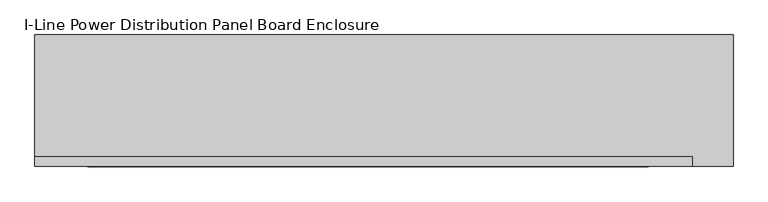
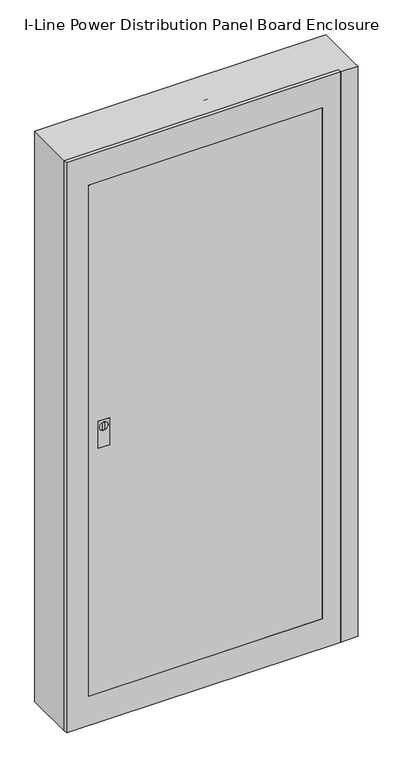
"""IFC4 building model written with IfcOpenShell, lengths in millimetres: proxy geometry, I-Line_Power_Distribution_Panel_Board_Enclosure_MDP-100_BIM_Model : I-Line Power Distribution Panel Board Enclosure."""

from ifc_helpers import new_model, si_unit, point, frame, frame_2d, origin, origin_with_axes, place, context, project, spatial, polyline, circle_curve, trimmed, segment, composite_curve, outline, extrude, source, transform, mapped, element, save


def i_line_power_distribution_panel_board_enclosure_b05ded53(model_context):
    return source(origin(), model_context, "Body", "SweptSolid", [
        extrude(outline(polyline([(29.9355959, 20.4466569), (29.9355959, -19.5533431), (-30.0644041, -19.5533431), (-30.0644041, 20.4466569), (29.9355959, 20.4466569)])), frame((0.0, 0.0, 2309.0), z_axis=(0.0, 0.0, 1.0), x_axis=(1.0, 0.0, 0.0)), (0.0, 0.0, 1.0), 1.0),
        extrude(outline(polyline([(1220.9933328, -394.120244), (1220.9933328, -438.1115289), (1112.0, -438.1115289), (1112.0, -394.120244), (1220.9933328, -394.120244)]), holes=[composite_curve([segment(trimmed(circle_curve(frame_2d((1194.7298791, -416.1240938)), 16.4146586), [point((1194.7298791, -432.5387523))], [point((1194.7298791, -399.7094352))], True, "CARTESIAN"), True, "CONTINUOUS"), segment(trimmed(circle_curve(frame_2d((1194.7298791, -416.1240938)), 16.4146586), [point((1194.7298791, -399.7094352))], [point((1194.7298791, -432.5387523))], True, "CARTESIAN"), True, "CONTINUOUS")], self_intersect=False)]), frame((0.0, -106.0, 0.0), z_axis=(0.0, 1.0, 0.0), x_axis=(0.0, 0.0, 1.0)), (0.0, 0.0, 1.0), 1.0),
        extrude(outline(composite_curve([segment(polyline([(1209.9614329, -420.0636118), (1179.4669633, -420.0636118)]), True, "CONTINUOUS"), segment(trimmed(circle_curve(frame_2d((1213.1619767, -416.1240938)), 33.9245299), [point((1179.4669633, -420.0636118))], [point((1179.4669633, -412.1845757))], False, "CARTESIAN"), True, "CONTINUOUS"), segment(polyline([(1179.4669633, -412.1845757), (1209.9614329, -412.1845757)]), True, "CONTINUOUS"), segment(trimmed(circle_curve(frame_2d((1194.1423953, -416.1240938)), 16.3022009), [point((1209.9614329, -412.1845757))], [point((1209.9614329, -420.0636118))], False, "CARTESIAN"), True, "CONTINUOUS")], self_intersect=False)), frame((0.0, -106.0, 0.0), z_axis=(0.0, 1.0, 0.0), x_axis=(0.0, 0.0, 1.0)), (0.0, 0.0, 1.0), 1.0),
        extrude(outline(polyline([(2311.0, 494.0), (2311.0, -559.0), (0.0, -559.0), (0.0, 494.0), (2311.0, 494.0)]), holes=[polyline([(2191.0, 423.0), (120.0, 423.0), (120.0, -474.0), (2191.0, -474.0), (2191.0, 423.0)])]), frame((0.0, -105.0, 0.0), z_axis=(0.0, 1.0, 0.0), x_axis=(0.0, 0.0, 1.0)), (0.0, 0.0, 1.0), 15.0),
        extrude(outline(polyline([(559.0, 105.0), (559.0, -80.0), (559.0, -105.0), (494.0, -105.0), (494.0, -90.0), (-559.0, -90.0), (-559.0, 105.0), (559.0, 105.0)])), origin_with_axes(), (0.0, 0.0, 1.0), 2311.0),
        extrude(outline(polyline([(423.0, -106.0), (-474.0, -106.0), (-474.0, -105.0), (423.0, -105.0), (423.0, -106.0)])), frame((0.0, 0.0, 120.0), z_axis=(0.0, 0.0, 1.0), x_axis=(1.0, 0.0, 0.0)), (0.0, 0.0, 1.0), 2071.0),
    ])


if __name__ == "__main__":
    model = new_model("IFC4")
    model_context = context("Model", 3, world=origin())
    ifc_project = project(units=[si_unit("LENGTHUNIT", "METRE", prefix="MILLI")], contexts=[model_context])
    site = spatial("IfcSite", under=ifc_project)
    building = spatial("IfcBuilding", under=site)
    placement = place(None, origin())
    i_line_power_distribution_panel_board_enclosure_shape = i_line_power_distribution_panel_board_enclosure_b05ded53(model_context)
    element("IfcBuildingElementProxy", 1, Name="I-Line_Power_Distribution_Panel_Board_Enclosure_MDP-100_BIM_Model : I-Line Power Distribution Panel Board Enclosure", ObjectType="I-Line_Power_Distribution_Panel_Board_Enclosure_MDP-100_BIM_Model : I-Line Power Distribution Panel Board Enclosure", at=placement, inside=building, context=model_context, shape_type="MappedRepresentation", body=[
        mapped(i_line_power_distribution_panel_board_enclosure_shape, transform((0.0, 0.0, 0.0), x_axis=(1.0, 0.0, 0.0), y_axis=(0.0, 1.0, 0.0), z_axis=(0.0, 0.0, 1.0))),
    ])
    save(model, "model.ifc")
